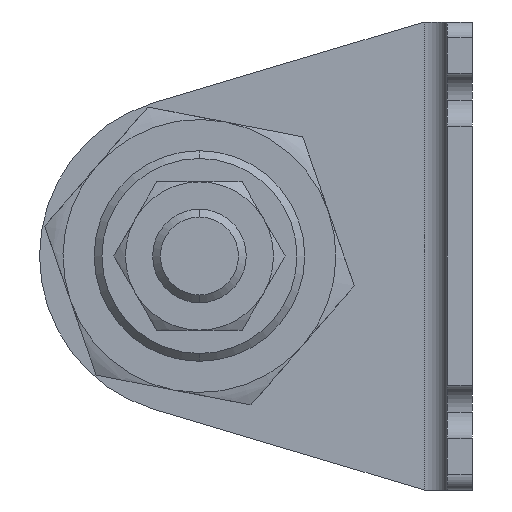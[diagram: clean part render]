
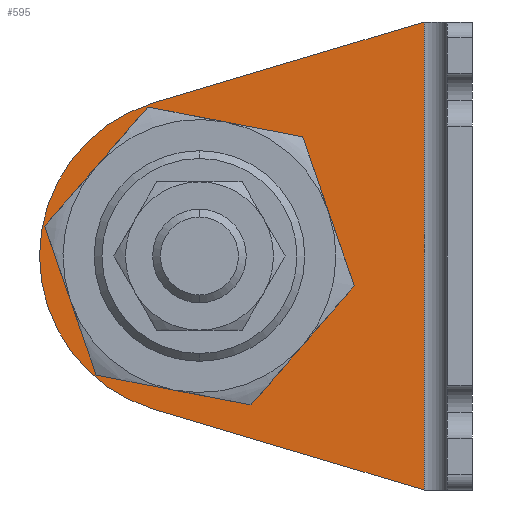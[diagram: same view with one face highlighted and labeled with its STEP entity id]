
A CAD part, left-side view. The second image highlights one B-rep face of the part: STEP entity #595.
In plain terms, the highlighted planar face has unit normal (-1, 0, 0) as drawn and (1, 0, 0) by its records, which use the part's own axes.
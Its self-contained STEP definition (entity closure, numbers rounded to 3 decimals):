
#10 = CIRCLE ( 'NONE', #238, 20.5 ) ;
#19 = CIRCLE ( 'NONE', #4170, 13.5 ) ;
#122 = CARTESIAN_POINT ( 'NONE',  ( 3.2, 6.2, 0. ) ) ;
#159 = VERTEX_POINT ( 'NONE', #197 ) ;
#197 = CARTESIAN_POINT ( 'NONE',  ( 3.2, 6.2, -60. ) ) ;
#211 = VECTOR ( 'NONE', #749, 1000. ) ;
#238 = AXIS2_PLACEMENT_3D ( 'NONE', #1589, #487, #4440 ) ;
#391 = ORIENTED_EDGE ( 'NONE', *, *, #1077, .T. ) ;
#419 = DIRECTION ( 'NONE',  ( 0., 0.958, 0.286 ) ) ;
#487 = DIRECTION ( 'NONE',  ( 1., 0., 0. ) ) ;
#520 = DIRECTION ( 'NONE',  ( 0., 1., 0. ) ) ;
#595 = ADVANCED_FACE ( 'NONE', ( #942, #3126 ), #4389, .T. ) ;
#649 = CIRCLE ( 'NONE', #3709, 13.5 ) ;
#680 = CARTESIAN_POINT ( 'NONE',  ( 3.2, 35., -30. ) ) ;
#749 = DIRECTION ( 'NONE',  ( 0., 0.958, -0.286 ) ) ;
#942 = FACE_BOUND ( 'NONE', #1724, .T. ) ;
#998 = VECTOR ( 'NONE', #3134, 1000. ) ;
#1001 = EDGE_LOOP ( 'NONE', ( #4347, #1979, #2070, #1603, #391 ) ) ;
#1052 = EDGE_CURVE ( 'NONE', #1565, #4238, #2902, .T. ) ;
#1077 = EDGE_CURVE ( 'NONE', #3307, #159, #2571, .T. ) ;
#1165 = CARTESIAN_POINT ( 'NONE',  ( 3.2, 19.903, -4.094 ) ) ;
#1334 = DIRECTION ( 'NONE',  ( 0., 1., 0. ) ) ;
#1464 = DIRECTION ( 'NONE',  ( 1., 0., 0. ) ) ;
#1550 = DIRECTION ( 'NONE',  ( 1., 0., 0. ) ) ;
#1565 = VERTEX_POINT ( 'NONE', #1838 ) ;
#1589 = CARTESIAN_POINT ( 'NONE',  ( 3.2, 35., -30. ) ) ;
#1603 = ORIENTED_EDGE ( 'NONE', *, *, #4233, .F. ) ;
#1703 = DIRECTION ( 'NONE',  ( 1., 0., 0. ) ) ;
#1724 = EDGE_LOOP ( 'NONE', ( #2004, #3465 ) ) ;
#1731 = VECTOR ( 'NONE', #419, 1000. ) ;
#1770 = DIRECTION ( 'NONE',  ( 1., 0., 0. ) ) ;
#1801 = EDGE_CURVE ( 'NONE', #4238, #3428, #10, .T. ) ;
#1817 = CARTESIAN_POINT ( 'NONE',  ( 3.2, 21.5, -30. ) ) ;
#1838 = CARTESIAN_POINT ( 'NONE',  ( 3.2, 40.868, -49.642 ) ) ;
#1882 = LINE ( 'NONE', #3395, #1731 ) ;
#1979 = ORIENTED_EDGE ( 'NONE', *, *, #1052, .T. ) ;
#1993 = CARTESIAN_POINT ( 'NONE',  ( 3.2, 35., -30. ) ) ;
#2004 = ORIENTED_EDGE ( 'NONE', *, *, #4294, .F. ) ;
#2070 = ORIENTED_EDGE ( 'NONE', *, *, #1801, .T. ) ;
#2180 = CARTESIAN_POINT ( 'NONE',  ( 3.2, 55.5, -30. ) ) ;
#2326 = LINE ( 'NONE', #1165, #211 ) ;
#2571 = LINE ( 'NONE', #3541, #998 ) ;
#2638 = CARTESIAN_POINT ( 'NONE',  ( 3.2, 48.5, -30. ) ) ;
#2902 = CIRCLE ( 'NONE', #3996, 20.5 ) ;
#2925 = CARTESIAN_POINT ( 'NONE',  ( 3.2, 3.2, -60. ) ) ;
#2933 = DIRECTION ( 'NONE',  ( 0., 1., 0. ) ) ;
#3028 = VERTEX_POINT ( 'NONE', #1817 ) ;
#3126 = FACE_OUTER_BOUND ( 'NONE', #1001, .T. ) ;
#3134 = DIRECTION ( 'NONE',  ( 0., 0., -1. ) ) ;
#3307 = VERTEX_POINT ( 'NONE', #122 ) ;
#3395 = CARTESIAN_POINT ( 'NONE',  ( 3.2, 3.446, -60.823 ) ) ;
#3420 = AXIS2_PLACEMENT_3D ( 'NONE', #2925, #1464, #520 ) ;
#3428 = VERTEX_POINT ( 'NONE', #3863 ) ;
#3465 = ORIENTED_EDGE ( 'NONE', *, *, #4280, .F. ) ;
#3515 = EDGE_CURVE ( 'NONE', #159, #1565, #1882, .T. ) ;
#3541 = CARTESIAN_POINT ( 'NONE',  ( 3.2, 6.2, -60. ) ) ;
#3709 = AXIS2_PLACEMENT_3D ( 'NONE', #3965, #1550, #2933 ) ;
#3710 = VERTEX_POINT ( 'NONE', #2638 ) ;
#3863 = CARTESIAN_POINT ( 'NONE',  ( 3.2, 40.868, -10.358 ) ) ;
#3965 = CARTESIAN_POINT ( 'NONE',  ( 3.2, 35., -30. ) ) ;
#3996 = AXIS2_PLACEMENT_3D ( 'NONE', #680, #1703, #4116 ) ;
#4116 = DIRECTION ( 'NONE',  ( 0., 1., 0. ) ) ;
#4170 = AXIS2_PLACEMENT_3D ( 'NONE', #1993, #1770, #1334 ) ;
#4233 = EDGE_CURVE ( 'NONE', #3307, #3428, #2326, .T. ) ;
#4238 = VERTEX_POINT ( 'NONE', #2180 ) ;
#4280 = EDGE_CURVE ( 'NONE', #3028, #3710, #649, .T. ) ;
#4294 = EDGE_CURVE ( 'NONE', #3710, #3028, #19, .T. ) ;
#4347 = ORIENTED_EDGE ( 'NONE', *, *, #3515, .T. ) ;
#4389 = PLANE ( 'NONE',  #3420 ) ;
#4440 = DIRECTION ( 'NONE',  ( 0., 1., 0. ) ) ;
